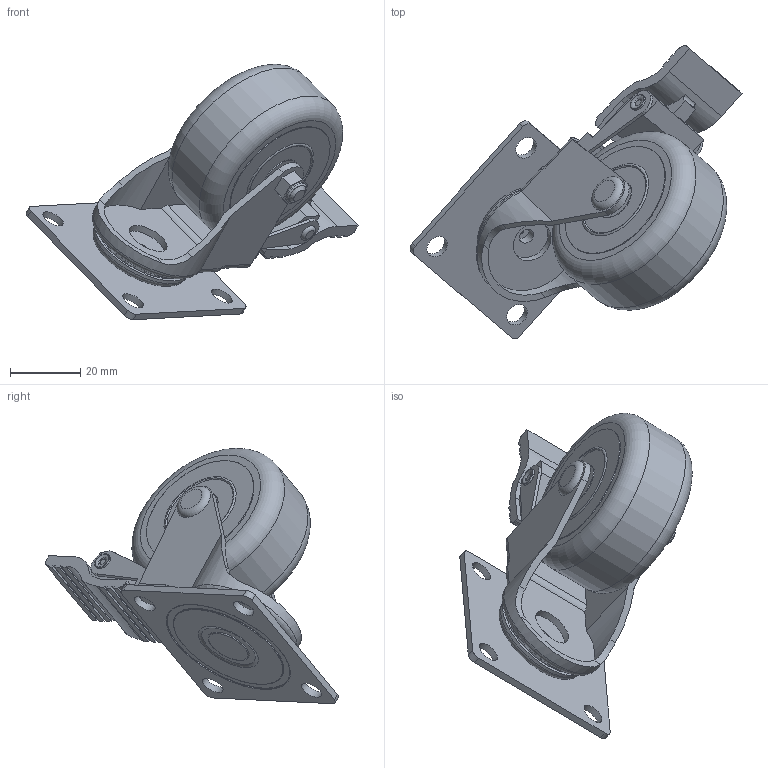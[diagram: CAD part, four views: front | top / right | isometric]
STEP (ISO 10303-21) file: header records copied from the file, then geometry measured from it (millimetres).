
FILE_DESCRIPTION(/* description */ (''),/* implementation_level */ '2;1');
FILE_NAME(/* name */ 'D:\cadd\new~產品型錄\輪子\GW-3AMPS-4.stp',/* time_stamp */ '2016-12-09T17:13:14+08:00',/* author */ ('Owner'),/* organization */ (''),/* preprocessor_version */ 'ST-DEVELOPER v15.2',/* originating_system */ 'Autodesk Inventor 2014',/* authorisation */ '');
FILE_SCHEMA (('AUTOMOTIVE_DESIGN { 1 0 10303 214 3 1 1 }'));
Length unit declared in the file: millimetre
Products named in the file (10): 2; 4; 5; 6; 7; 9; 10; 11; 1; GW-3AMPS-4
Bounding box: 94.8 x 83.67 x 72.93 mm (x, y, z)
Volume: 62231.9 mm3; surface area: 27798.4 mm2
Topology: 21 solids, 21 shells, 197 faces, 484 edges, 320 vertices
Faces by surface type: plane 106, cylinder 57, torus 19, sphere 12, bspline 2, cone 1
Full cylindrical faces by diameter (mm): 1.548 x1, 3 x1, 4 x2, 4.472 x1, 5 x1, 6 x2, 6.201 x1, 6.5 x6, 7 x2, 12 x3, 21.125 x1, 28 x1, 30 x1, 35 x1, 35.609 x2, 39 x1, 50 x1
Entity records: 5716 total; most frequent: CARTESIAN_POINT 1145, DIRECTION 966, ORIENTED_EDGE 786, EDGE_CURVE 393, AXIS2_PLACEMENT_3D 369, VERTEX_POINT 288, EDGE_LOOP 273, LINE 228
